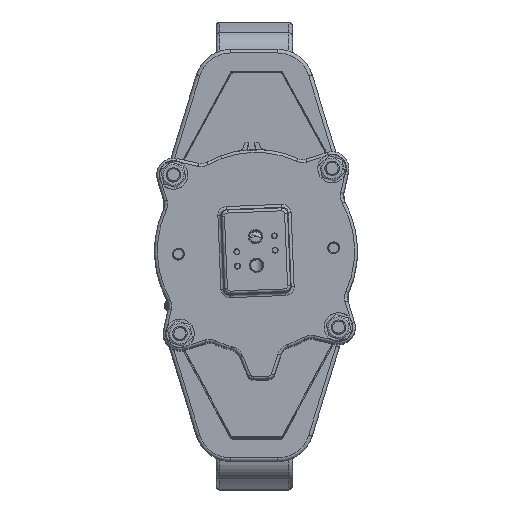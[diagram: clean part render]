
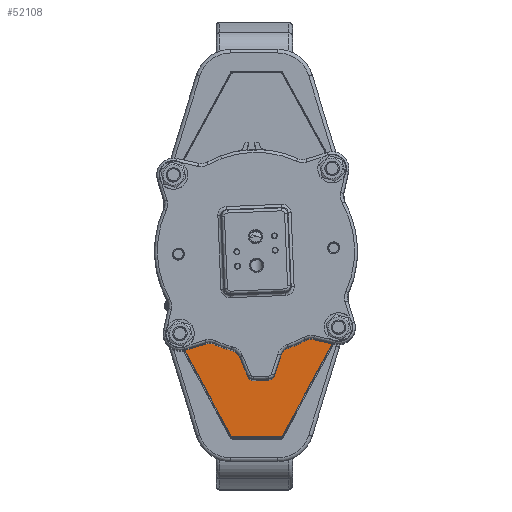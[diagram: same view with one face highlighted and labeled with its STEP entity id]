
A CAD part, top view. The second image highlights one B-rep face of the part: STEP entity #52108.
In plain terms, the highlighted planar face has unit normal (0, 0, 1).
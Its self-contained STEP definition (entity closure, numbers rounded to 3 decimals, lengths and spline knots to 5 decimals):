
#3053=PLANE('',#58067);
#6813=FACE_OUTER_BOUND('',#10225,.T.);
#10225=EDGE_LOOP('',(#48725,#48726,#48727,#48728,#48729,#48730,#48731,#48732,
#48733,#48734,#48735,#48736,#48737));
#13224=LINE('',#95242,#16197);
#14208=LINE('',#136603,#17181);
#14371=LINE('',#137168,#17344);
#14372=LINE('',#137171,#17345);
#14375=LINE('',#137176,#17348);
#14378=LINE('',#137181,#17351);
#14379=LINE('',#137184,#17352);
#14383=LINE('',#137192,#17356);
#14391=LINE('',#137208,#17364);
#14393=LINE('',#137211,#17366);
#14395=LINE('',#137215,#17368);
#14397=LINE('',#137219,#17370);
#14398=LINE('',#137221,#17371);
#16197=VECTOR('',#67073,0.05447);
#17181=VECTOR('',#71969,0.0051);
#17344=VECTOR('',#72436,0.09604);
#17345=VECTOR('',#72439,0.00754);
#17348=VECTOR('',#72444,0.07108);
#17351=VECTOR('',#72447,0.0039);
#17352=VECTOR('',#72450,0.00744);
#17356=VECTOR('',#72456,0.09615);
#17364=VECTOR('',#72468,0.00035);
#17366=VECTOR('',#72472,0.00057);
#17368=VECTOR('',#72476,0.00057);
#17370=VECTOR('',#72480,0.00035);
#17371=VECTOR('',#72483,0.04117);
#23472=VERTEX_POINT('',#95226);
#23479=VERTEX_POINT('',#95240);
#25057=VERTEX_POINT('',#136601);
#25304=VERTEX_POINT('',#137161);
#25307=VERTEX_POINT('',#137166);
#25308=VERTEX_POINT('',#137170);
#25311=VERTEX_POINT('',#137179);
#25312=VERTEX_POINT('',#137183);
#25315=VERTEX_POINT('',#137190);
#25320=VERTEX_POINT('',#137205);
#25321=VERTEX_POINT('',#137207);
#25322=VERTEX_POINT('',#137213);
#25323=VERTEX_POINT('',#137217);
#30065=EDGE_CURVE('',#23479,#23472,#13224,.T.);
#32696=EDGE_CURVE('',#25057,#23479,#14208,.T.);
#32979=EDGE_CURVE('',#25307,#25304,#14371,.T.);
#32980=EDGE_CURVE('',#25308,#25307,#14372,.T.);
#32983=EDGE_CURVE('',#23472,#25308,#14375,.T.);
#32986=EDGE_CURVE('',#25311,#25057,#14378,.T.);
#32987=EDGE_CURVE('',#25312,#25311,#14379,.T.);
#32991=EDGE_CURVE('',#25315,#25312,#14383,.T.);
#32999=EDGE_CURVE('',#25321,#25320,#14391,.T.);
#33001=EDGE_CURVE('',#25320,#25304,#14393,.T.);
#33003=EDGE_CURVE('',#25315,#25322,#14395,.T.);
#33005=EDGE_CURVE('',#25322,#25323,#14397,.T.);
#33006=EDGE_CURVE('',#25321,#25323,#14398,.T.);
#48725=ORIENTED_EDGE('',*,*,#30065,.F.);
#48726=ORIENTED_EDGE('',*,*,#32696,.F.);
#48727=ORIENTED_EDGE('',*,*,#32986,.F.);
#48728=ORIENTED_EDGE('',*,*,#32987,.F.);
#48729=ORIENTED_EDGE('',*,*,#32991,.F.);
#48730=ORIENTED_EDGE('',*,*,#33003,.T.);
#48731=ORIENTED_EDGE('',*,*,#33005,.T.);
#48732=ORIENTED_EDGE('',*,*,#33006,.F.);
#48733=ORIENTED_EDGE('',*,*,#32999,.T.);
#48734=ORIENTED_EDGE('',*,*,#33001,.T.);
#48735=ORIENTED_EDGE('',*,*,#32979,.F.);
#48736=ORIENTED_EDGE('',*,*,#32980,.F.);
#48737=ORIENTED_EDGE('',*,*,#32983,.F.);
#52108=ADVANCED_FACE('',(#6813),#3053,.T.);
#58067=AXIS2_PLACEMENT_3D('',#137510,#72898,#72899);
#67073=DIRECTION('',(0.999,0.041,0.));
#71969=DIRECTION('',(0.901,-0.434,0.));
#72436=DIRECTION('',(-0.477,-0.879,0.));
#72439=DIRECTION('',(-0.007,-1.,0.));
#72444=DIRECTION('',(1.,0.,0.));
#72447=DIRECTION('',(1.,0.,0.));
#72450=DIRECTION('',(0.,1.,0.));
#72456=DIRECTION('',(-0.477,0.879,0.));
#72468=DIRECTION('',(0.,1.,0.));
#72472=DIRECTION('',(1.,0.,0.));
#72476=DIRECTION('',(1.,0.,0.));
#72480=DIRECTION('',(0.,-1.,0.));
#72483=DIRECTION('',(-1.,0.,0.));
#72898=DIRECTION('center_axis',(0.,0.,
1.));
#72899=DIRECTION('ref_axis',(1.,0.,0.));
#95226=CARTESIAN_POINT('',(-0.00208,-0.06,0.5794));
#95240=CARTESIAN_POINT('',(-0.05651,-0.06221,0.5794));
#95242=CARTESIAN_POINT('',(-0.05651,-0.06221,0.5794));
#136601=CARTESIAN_POINT('',(-0.0611,-0.06,0.5794));
#136603=CARTESIAN_POINT('',(-0.0611,-0.06,0.5794));
#137161=CARTESIAN_POINT('',(0.02315,-0.15195,0.5794));
#137166=CARTESIAN_POINT('',(0.06895,-0.06753,0.5794));
#137168=CARTESIAN_POINT('',(0.06895,-0.06753,0.5794));
#137170=CARTESIAN_POINT('',(0.069,-0.06,0.5794));
#137171=CARTESIAN_POINT('',(0.069,-0.06,0.5794));
#137176=CARTESIAN_POINT('',(-0.00208,-0.06,0.5794));
#137179=CARTESIAN_POINT('',(-0.065,-0.06,0.5794));
#137181=CARTESIAN_POINT('',(-0.065,-0.06,0.5794));
#137183=CARTESIAN_POINT('',(-0.065,-0.06744,0.5794));
#137184=CARTESIAN_POINT('',(-0.065,-0.06744,0.5794));
#137190=CARTESIAN_POINT('',(-0.01915,-0.15195,0.5794));
#137192=CARTESIAN_POINT('',(-0.01915,-0.15195,0.5794));
#137205=CARTESIAN_POINT('',(0.02258,-0.15195,0.5794));
#137207=CARTESIAN_POINT('',(0.02258,-0.1523,0.5794));
#137208=CARTESIAN_POINT('',(0.02258,-0.1523,0.5794));
#137211=CARTESIAN_POINT('',(0.02258,-0.15195,0.5794));
#137213=CARTESIAN_POINT('',(-0.01858,-0.15195,0.5794));
#137215=CARTESIAN_POINT('',(-0.01915,-0.15195,0.5794));
#137217=CARTESIAN_POINT('',(-0.01858,-0.1523,0.5794));
#137219=CARTESIAN_POINT('',(-0.01858,-0.15195,0.5794));
#137221=CARTESIAN_POINT('',(0.02258,-0.1523,0.5794));
#137510=CARTESIAN_POINT('Origin',(0.002,-0.09531,
0.5794));
